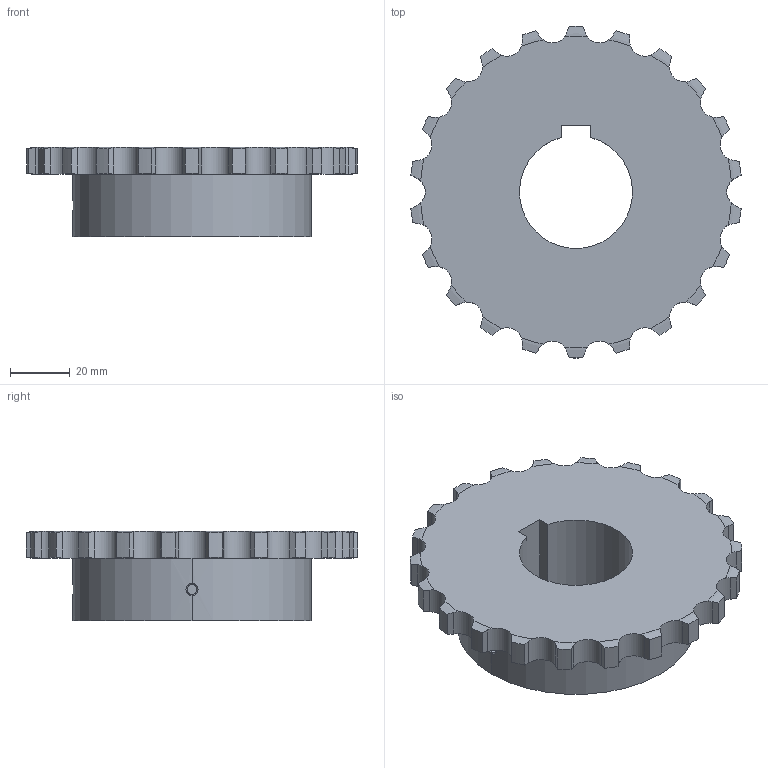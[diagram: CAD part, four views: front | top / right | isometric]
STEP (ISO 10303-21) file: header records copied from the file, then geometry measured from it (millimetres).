
FILE_DESCRIPTION((''),'2;1');
FILE_NAME('510-301-3822_PRT','2021-02-13T',('Brieden'),('Brieden'),'PRO/ENGINEER BY PARAMETRIC TECHNOLOGY CORPORATION, 2010160','PRO/ENGINEER BY PARAMETRIC TECHNOLOGY CORPORATION, 2010160','');
FILE_SCHEMA(('AUTOMOTIVE_DESIGN { 1 0 10303 214 1 1 1 1 }'));
Length unit declared in the file: millimetre
Products named in the file (1): 510-301-3822_PRT
Bounding box: 110.98 x 111.54 x 30 mm (x, y, z)
Volume: 150319.6 mm3; surface area: 28743.1 mm2
Topology: 1 solids, 1 shells, 153 faces, 441 edges, 292 vertices
Faces by surface type: cylinder 95, torus 44, plane 8, bspline 6
Entity records: 7392 total; most frequent: CARTESIAN_POINT 2229, ORIENTED_EDGE 882, DIRECTION 689, PRESENTATION_STYLE_ASSIGNMENT 442, STYLED_ITEM 442, CURVE_STYLE 441, EDGE_CURVE 441, VERTEX_POINT 292
